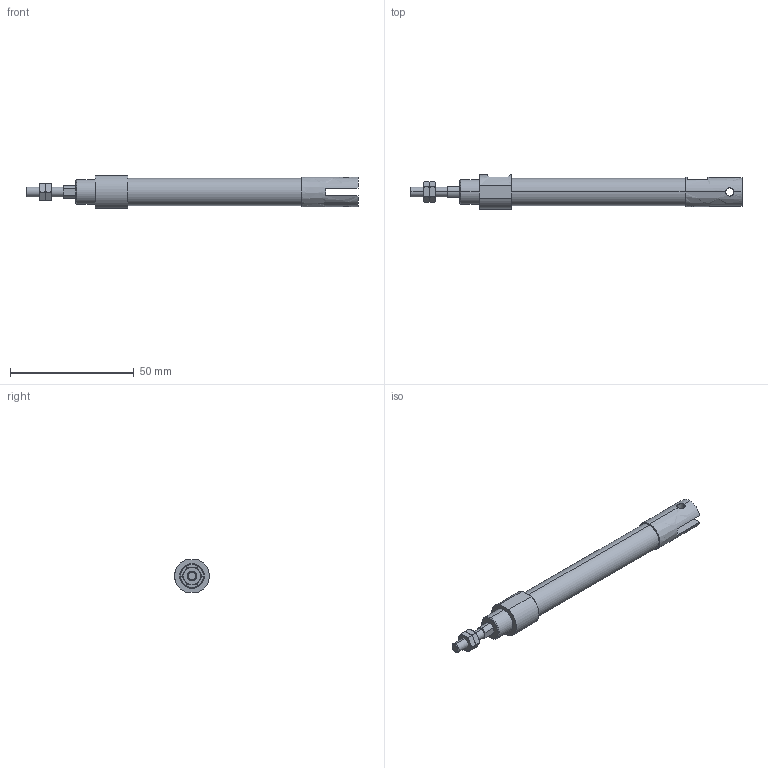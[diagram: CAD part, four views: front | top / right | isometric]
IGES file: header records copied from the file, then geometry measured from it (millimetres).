
Start section: SolidWorks IGES file using analytic representation for surfaces
Global section: file name: C:\Users\Toshiba\Desktop\ZGU2-10-45-W.IGS; native system: SolidWorks 2014; preprocessor: SolidWorks 2014; author: Toshiba; date: 160331.085415; units: millimetre
Bounding box: 134 x 14 x 13 mm (x, y, z)
Surface area: 5474 mm2 (no closed solid volume)
Topology: 0 solids, 0 shells, 94 faces, 1442 edges, 1438 vertices
Faces by surface type: bspline 61, revolution 33
